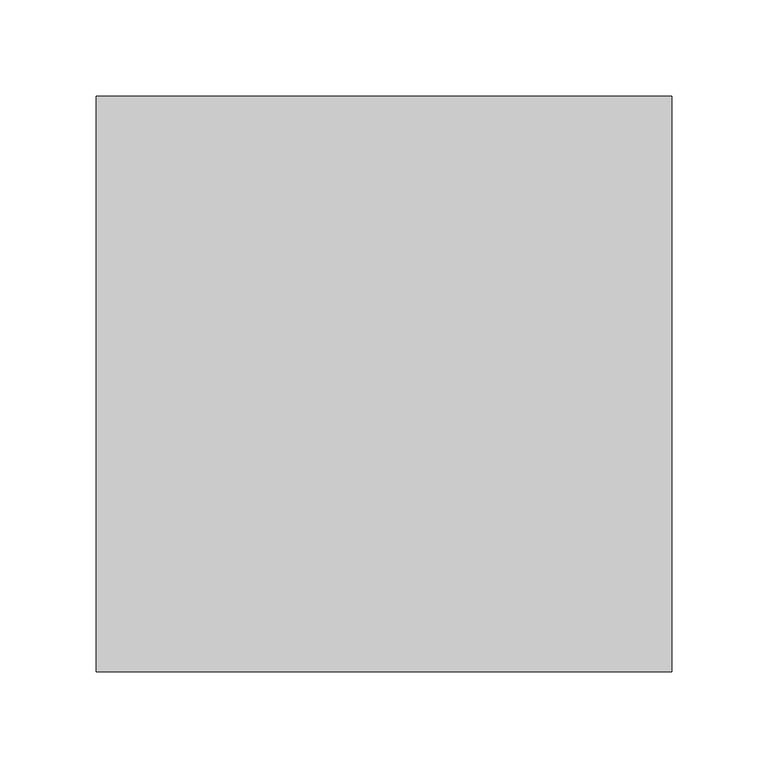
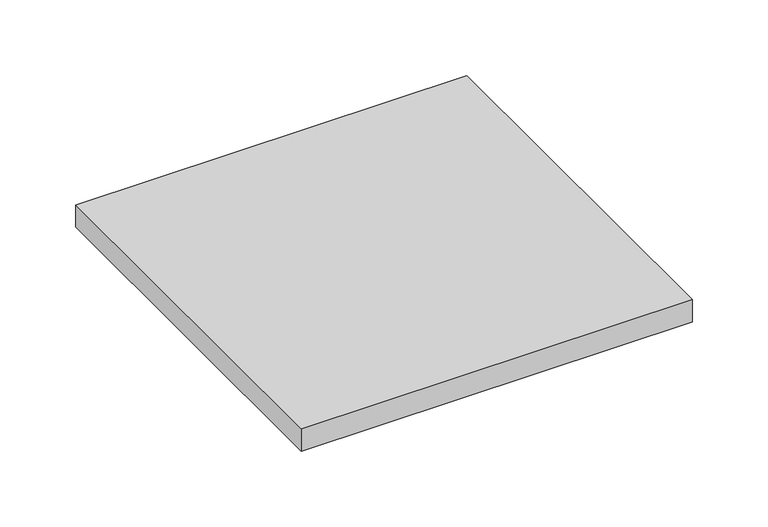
"""IFC4 building model written with IfcOpenShell, lengths in millimetres: proxy geometry, TECHNO_Решетка_KVU : Решетка рулонная деревянная / Светлое дерево."""

from ifc_helpers import new_model, si_unit, frame, origin, place, context, project, spatial, polyline, outline, extrude, source, transform, mapped, element, save


def mechanical_equipment_fffb673e(model_context):
    return source(origin(), model_context, "Body", "SweptSolid", [
        extrude(outline(polyline([(148.8, 148.8), (148.8, -150.0), (-150.0, -150.0), (-150.0, 148.8), (148.8, 148.8)])), frame((0.0, 0.0, -18.1), z_axis=(0.0, 0.0, 1.0), x_axis=(1.0, 0.0, 0.0)), (0.0, 0.0, 1.0), 18.1),
    ])


if __name__ == "__main__":
    model = new_model("IFC4")
    model_context = context("Model", 3, world=origin())
    ifc_project = project(units=[si_unit("LENGTHUNIT", "METRE", prefix="MILLI")], contexts=[model_context])
    site = spatial("IfcSite", under=ifc_project)
    building = spatial("IfcBuilding", under=site)
    placement = place(None, origin())
    mechanical_equipment_shape = mechanical_equipment_fffb673e(model_context)
    element("IfcBuildingElementProxy", 1, Name="TECHNO_Решетка_KVU : Решетка рулонная деревянная / Светлое дерево", ObjectType="TECHNO_Решетка_KVU : Решетка рулонная деревянная / Светлое дерево", at=placement, inside=building, context=model_context, shape_type="MappedRepresentation", body=[
        mapped(mechanical_equipment_shape, transform((0.0, 0.0, 0.0), x_axis=(1.0, 0.0, 0.0), y_axis=(0.0, 1.0, 0.0), z_axis=(0.0, 0.0, 1.0))),
    ])
    save(model, "model.ifc")
